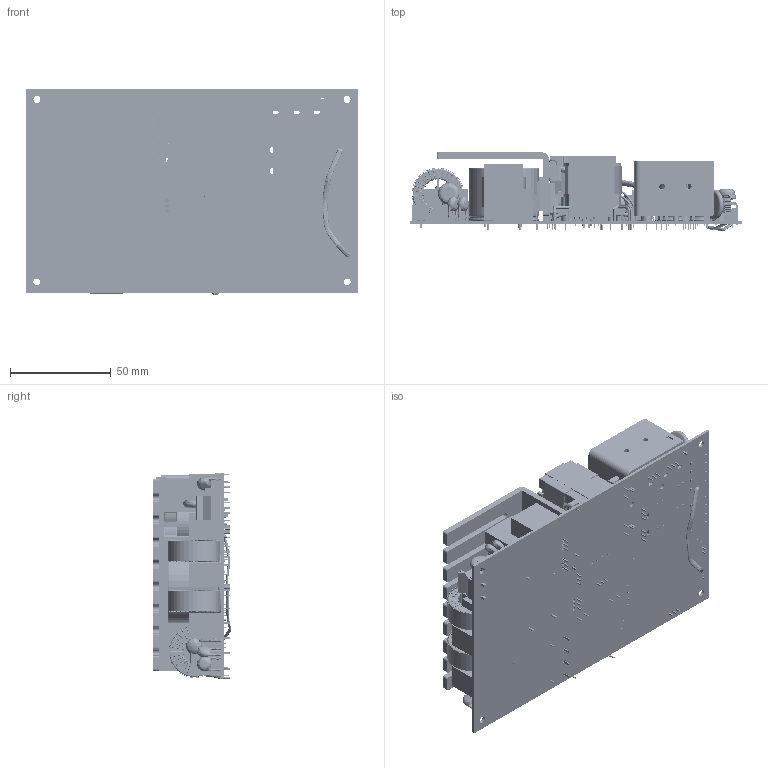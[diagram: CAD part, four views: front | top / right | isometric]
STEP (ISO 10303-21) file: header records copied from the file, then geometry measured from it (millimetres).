
FILE_DESCRIPTION (( 'STEP AP214' ), '1' );
FILE_NAME ('CFM351M²Õ¦X¥ó.STEP', '2018-01-25T00:39:30', ( 'cincon' ), ( '' ), 'SwSTEP 2.0', 'SolidWorks 2008', '' );
FILE_SCHEMA (( 'AUTOMOTIVE_DESIGN' ));
Length unit declared in the file: millimetre
Products named in the file (53): 電晶體10mm; CFM351M溫控開關_預設; 電晶體10mm(附螺絲); CFM351-480T4變壓器; Electrolitic Capacitor Radial 35x26; Electrolitic Capacitor Radial (12.7x26); GreenLED(980824); CFM351M-330N變壓器980902; CFM3501M 3 PIN插座-990401; VR1 980713_預設; CFM351固定片_預設; CFM351M SERIES散熱片980903; WS-73018 K5矽鋼片-990316_預設; CFM351S JP3跳線-981103_預設; CFM351M CY6 d15x2.5_預設; 3x2PIN插座981106; CFM351M CX(7_2X12)_預設; CFM351M CY3-10; CFM351M L5_預設; CFM351M CY3 980903; CFM351M C19_預設; CFM351M L2_預設; M5平華司; Z1(10.6X15.1)_預設; CFM351M CY2-16; CFM351M變壓器T3; M5彈簧華司; M5x8螺絲; M5十字螺絲加彈簧華絲加平華絲_預設; CFM351M CN4B-9809203_預設; CFM351M L1; OptoCoupler TLP521-2; 2PIN插座; CFM351-480T1變壓器; CFM351M-12V變壓器981109; CFM351M D8_預設; Axial0_4_3K3(980119); CFM351M D1_預設; CFM351M散熱片HS2-B-990305_預設; CFM351S-PCB-990315_預設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
Assembly tree (74 placements, depth 3):
  CFM351M組合件
    電晶體10mm(附螺絲)  x2
    CFM351-480T4變壓器
    CFM351M橋式整流器電晶體25x15_預設
    M5十字螺絲加彈簧華絲加平華絲_預設  x4
      M5彈簧華司
      M5x8螺絲
      M5平華司
    CFM351M CN4B-9809203_預設  x4
    CFM351M散熱片HS2-B-990305_預設
      CFM351M散熱片HS2-B-990305_預設
      ､鎹IN_ｹwｳ]
    CFM351S-PCB-990315_預設
    Z1(10.6X15.1)_預設
    CFM351M CY3-10  x2
    CFM351M SERIES散熱片980903  x2
    Axial0_4_3K3(980119)  x2
    電晶體10mm
    CFM351M-330N變壓器980902
    3x2PIN插座981106
    CFM351M CX(7_2X12)_預設  x5
    GreenLED(980824)
    CFM351M D1_預設  x3
    CFM351M L1  x2
    CFM351M散熱片HS5-2-981027_預設
      CFM351M散熱片HS5-2-981027_預設
      ､鎹IN_ｹwｳ]
    Electrolitic Capacitor Radial 35x26
    Electrolitic Capacitor Radial (12.7x26)  x4
    CFM351固定片_預設
    電晶體10mm
    CFM351M CY6 d15x2.5_預設  x2
    OptoCoupler TLP521-2
    CFM351S JP3跳線-981103_預設
    CFM351M CY3 980903
    CFM351M CY2-16
    2PIN插座
    電晶體10mm
    CFM351M L2_預設
    CFM351M L5_預設
    CFM351M C19_預設
    電晶體10mm
    電晶體10mm
    WS-73018 K5矽鋼片-990316_預設
    CFM351M變壓器T3
    電晶體10mm
    電晶體10mm
    CFM351M D8_預設
    CFM3501M 3 PIN插座-990401
    VR1 980713_預設
    CFM351-480T1變壓器
    CFM351M-12V變壓器981109
    CFM351M溫控開關_預設
    電晶體10mm
Bounding box: 165.1 x 39.16 x 102.79 mm (x, y, z)
Volume: 219677.9 mm3; surface area: 150656 mm2
Topology: 90 solids, 90 shells, 6600 faces, 17679 edges, 11195 vertices
Faces by surface type: plane 2566, cylinder 2517, torus 1085, bspline 348, cone 83, sphere 1
Entity records: 178114 total; most frequent: CARTESIAN_POINT 48678, ORIENTED_EDGE 25908, DIRECTION 24648, EDGE_CURVE 12954, AXIS2_PLACEMENT_3D 8969, VERTEX_POINT 8266, VECTOR 6710, LINE 6710
